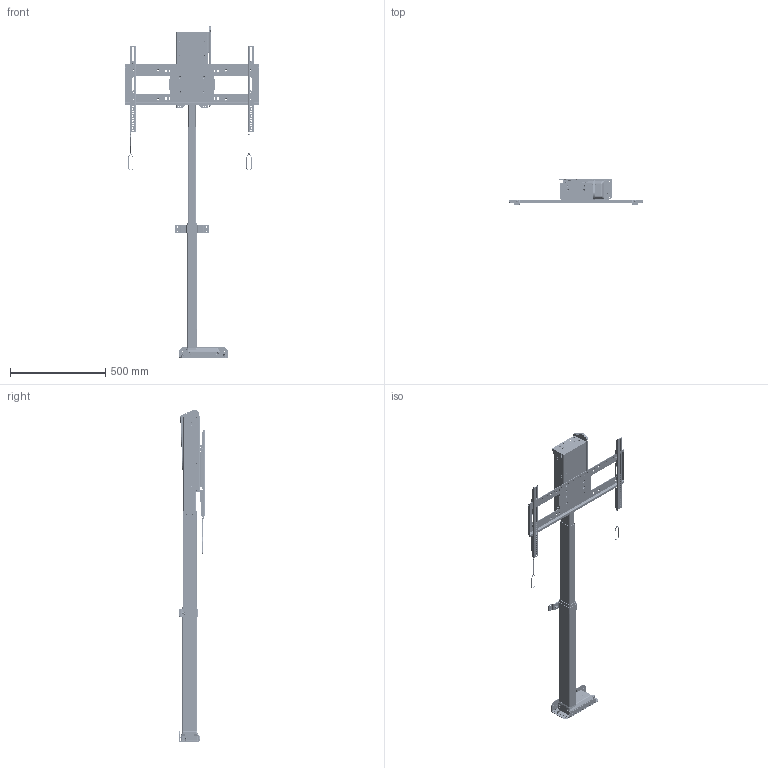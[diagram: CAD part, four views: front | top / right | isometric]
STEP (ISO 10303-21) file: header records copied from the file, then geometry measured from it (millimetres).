
FILE_DESCRIPTION(/* description */ ('STEP AP242','CAx-IF Rec.Pracs.---Representation and Presentation of Product Manufacturing Information (PMI)---4.0---2014-10-13','CAx-IF Rec.Pracs.---3D Tessellated Geometry---0.4---2014-09-14','2;1'),/* implementation_level */ '2;1');
FILE_NAME(/* name */ '63effc33e841dc281484807c',/* time_stamp */ '2023-02-17T22:14:15+00:00',/* author */ (''),/* organization */ (''),/* preprocessor_version */ 'ST-DEVELOPER v18.102',/* originating_system */ ' ',/* authorisation */ ' ');
FILE_SCHEMA (('AP242_MANAGED_MODEL_BASED_3D_ENGINEERING_MIM_LF { 1 0 10303 442 1 1 4 }'));
Products named in the file (38): L-65/s; Hex socket countersunk head screw M6x1 x 16; Hex socket countersunk head screw M6x1 x 12; Socket button head screw M6x1 x 8; ULS-NX-037 -- ULS HTG Adapter Plate; WDS8151-215; OLD_ULS-NX-024 - ULS Hinged Top Guide; ULS-NX-108 - ULS SCREEN SUPPORT WELDMENT <1>; PEM CLS-M6-1  ; F-M6-3 M6 PEM NUT; ULS-NX-008 - UL SCREEN SUPPORT SHELL; ULS-NX-009 - ULS SCREEN SUPPORT TOP PLATE <1>; ULS-NX-009 - UL SCREEN SUPPORT TOP PLATE; SBP & VMB <1>; PZ Pan head screw M5x0.80 x 25; ULS-NX-017 - UL SCREEN BACK PLATE; Lanyard; ULS-NX-118 - UL VMB WELDMENT <2>; Socket button head cap screw #6-32 x 0.188; VMB Washer; ULS-NX-019 - UL LEVEL ADJUSTMENT PLATE; PEM BSO-632-10  ZI; 90107A012; ULS-NX-018 - UL VERICAL MOUNTING BAR; ULS-NX-020 - UL SCREEN LOCK; ULS-NX-118 - UL VMB WELDMENT <1>; L-65 Lower Sub Assembly <1>; ULS-NX-002 - ULS QUICK RELEASE LC MOUNT; ULS-NX-004 - ULS COLUMN CLAMP; ULS-NX-001 - ULS QUICK RELEASE BASE MOUNT W/ PEMS <1>; PEM FHS-M6-12  ; ULS-NX-001 - ULS QUICK RELEASE BASE MOUNT; ULS-NX-022 - ULS REAR SUPPORT <1>; ULS-NX-022 - ULS REAR SUPPORT; DL16XL_STANDART_ASM <1>; L45 LC Inner Profile; L45 LC Motor Housing; L45 LC Middle Profile
Assembly tree (114 placements, depth 4):
  L-65/s
    Hex socket countersunk head screw M6x1 x 16  x4
    Hex socket countersunk head screw M6x1 x 12  x10
    Socket button head screw M6x1 x 8  x4
    ULS-NX-037 -- ULS HTG Adapter Plate
    WDS8151-215  x4
    OLD_ULS-NX-024 - ULS Hinged Top Guide
    ULS-NX-108 - ULS SCREEN SUPPORT WELDMENT <1>
      PEM CLS-M6-1    x32
      F-M6-3 M6 PEM NUT
      ULS-NX-008 - UL SCREEN SUPPORT SHELL
      ULS-NX-009 - ULS SCREEN SUPPORT TOP PLATE <1>
        PEM CLS-M6-1    x4
        ULS-NX-009 - UL SCREEN SUPPORT TOP PLATE
    SBP & VMB <1>
      PZ Pan head screw M5x0.80 x 25  x2
      ULS-NX-017 - UL SCREEN BACK PLATE
      Lanyard  x2
      ULS-NX-118 - UL VMB WELDMENT <2>
        Socket button head cap screw #6-32 x 0.188  x2
        VMB Washer  x4
        ULS-NX-019 - UL LEVEL ADJUSTMENT PLATE
        PEM BSO-632-10  ZI  x2
        90107A012  x2
        ULS-NX-018 - UL VERICAL MOUNTING BAR
        ULS-NX-020 - UL SCREEN LOCK
      ULS-NX-118 - UL VMB WELDMENT <1>
        VMB Washer  x4
        Socket button head cap screw #6-32 x 0.188  x2
        PEM BSO-632-10  ZI  x2
        ULS-NX-020 - UL SCREEN LOCK
        ULS-NX-018 - UL VERICAL MOUNTING BAR
        90107A012  x2
        ULS-NX-019 - UL LEVEL ADJUSTMENT PLATE
    L-65 Lower Sub Assembly <1>
      ULS-NX-002 - ULS QUICK RELEASE LC MOUNT
      ULS-NX-004 - ULS COLUMN CLAMP
      ULS-NX-001 - ULS QUICK RELEASE BASE MOUNT W/ PEMS <1>
        PEM FHS-M6-12    x2
        ULS-NX-001 - ULS QUICK RELEASE BASE MOUNT
      ULS-NX-022 - ULS REAR SUPPORT <1>
        ULS-NX-022 - ULS REAR SUPPORT
        PEM FHS-M6-12    x2
      DL16XL_STANDART_ASM <1>
        L45 LC Inner Profile
        L45 LC Motor Housing
        L45 LC Middle Profile
Bounding box: 698.5 x 135.05 x 1741.98 mm (x, y, z)
Volume: 8374898.8 mm3; surface area: 1518415.5 mm2
Topology: 105 solids, 105 shells, 8350 faces, 22329 edges, 14448 vertices
Faces by surface type: plane 5761, cylinder 1524, cone 517, bspline 358, torus 168, sphere 22
Full cylindrical faces by diameter (mm): 2.032 x14, 2.642 x4, 3.175 x10, 3.505 x4, 4.6 x2, 4.917 x37, 5 x18, 5.026 x4, 5.08 x4, 5.277 x8, 5.3 x6, 5.385 x12, 5.41 x8, 5.6 x4, 5.613 x6, 5.944 x4, 5.994 x2, 6 x36, 6.35 x16, 6.528 x4, 6.6 x4, 6.604 x4, 6.655 x4, 6.976 x1, 7.112 x2, 7.62 x2, 8.128 x34, 8.72 x1, 8.73 x36, 8.75 x36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
Entity records: 85574 total; most frequent: CARTESIAN_POINT 16863, DIRECTION 13407, ORIENTED_EDGE 13130, EDGE_CURVE 6565, AXIS2_PLACEMENT_3D 4577, VERTEX_POINT 4338, LINE 4253, VECTOR 4253
